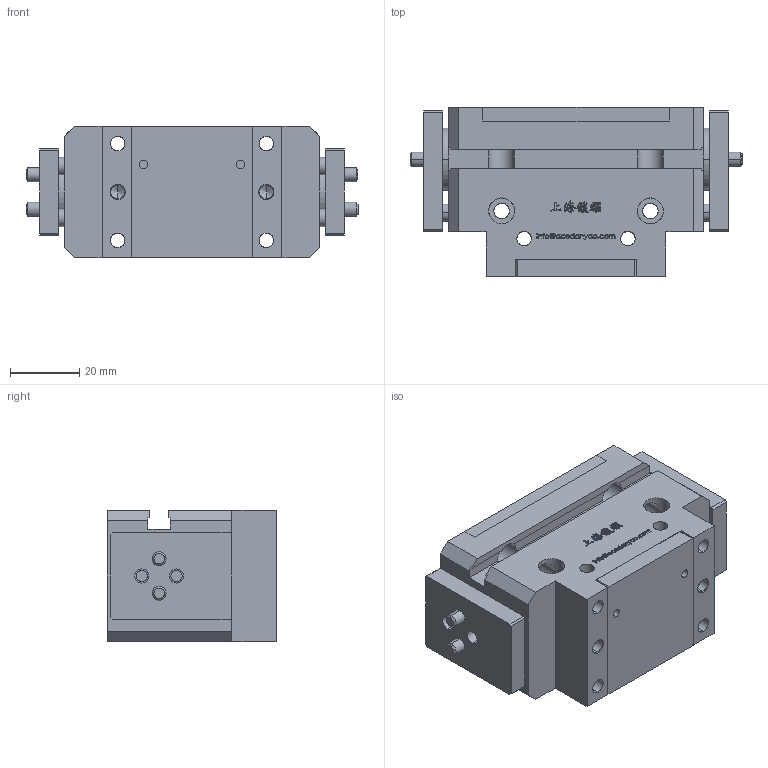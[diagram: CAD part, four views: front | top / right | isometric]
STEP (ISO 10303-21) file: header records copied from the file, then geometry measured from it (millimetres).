
FILE_DESCRIPTION (( 'STEP AP203' ), '1' );
FILE_NAME ('SRO-64-原始檔-組合-W106.04.20.STEP', '2017-04-20T07:45:27', ( 'DanyaoCAD' ), ( '' ), 'SwSTEP 2.0', 'SolidWorks 2016', '' );
FILE_SCHEMA (( 'CONFIG_CONTROL_DESIGN' ));
Length unit declared in the file: millimetre
Products named in the file (4): Griffa; Corpo; SRO-64-原始檔-組合-W106.04.20; Fondello
Assembly tree (4 placements, depth 2):
  SRO-64-原始檔-組合-W106.04.20
    Fondello
    Griffa  x2
    Corpo
Bounding box: 96 x 49 x 38 mm (x, y, z)
Volume: 124252.8 mm3; surface area: 40531.5 mm2
Topology: 4 solids, 4 shells, 1016 faces, 2786 edges, 1840 vertices
Faces by surface type: bspline 640, plane 252, cylinder 100, cone 24
Entity records: 51360 total; most frequent: CARTESIAN_POINT 30610, ORIENTED_EDGE 5384, EDGE_CURVE 2692, DIRECTION 2042, VERTEX_POINT 1784, B_SPLINE_CURVE_WITH_KNOTS 1402, LINE 1222, VECTOR 1222
